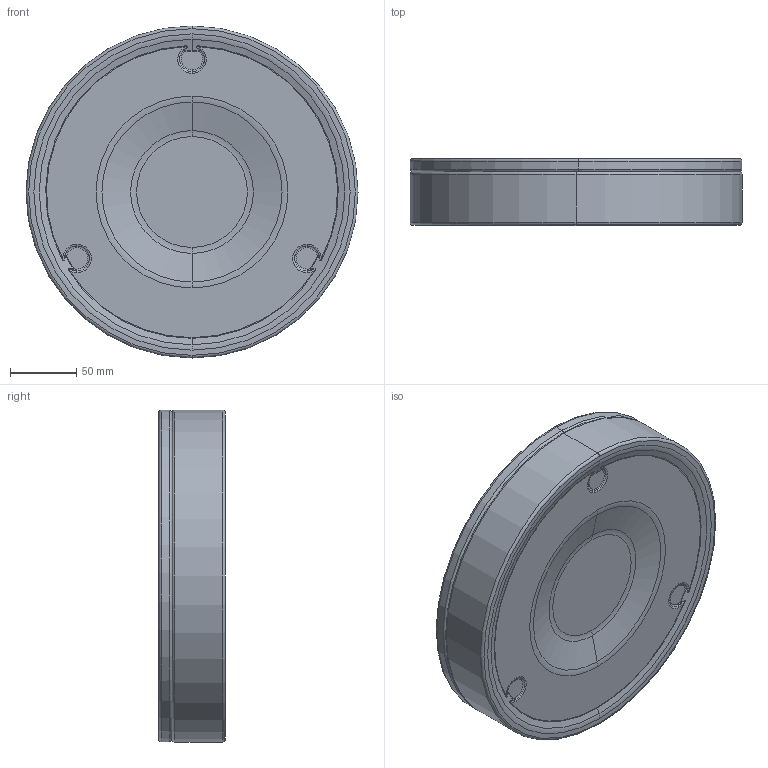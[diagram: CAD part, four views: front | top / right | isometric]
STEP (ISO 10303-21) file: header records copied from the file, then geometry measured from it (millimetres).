
FILE_DESCRIPTION (( 'STEP AP214' ), '1' );
FILE_NAME ('DS4000C__-BARBADOS-D25.STEP', '2015-05-12T17:34:40', ( '' ), ( '' ), 'SwSTEP 2.0', 'SolidWorks 2015', '' );
FILE_SCHEMA (( 'AUTOMOTIVE_DESIGN' ));
Length unit declared in the file: millimetre
Products named in the file (3): coperchio D25; DS4000C__-BARBADOS-D25; Corpo D25
Assembly tree (2 placements, depth 2):
  DS4000C__-BARBADOS-D25
    Corpo D25
    coperchio D25
Bounding box: 250 x 50.03 x 250 mm (x, y, z)
Volume: 1309784.4 mm3; surface area: 233916.5 mm2
Topology: 2 solids, 2 shells, 130 faces, 269 edges, 150 vertices
Faces by surface type: torus 65, cone 26, plane 14, bspline 12, sphere 9, cylinder 4
Entity records: 4325 total; most frequent: CARTESIAN_POINT 1394, DIRECTION 709, ORIENTED_EDGE 538, AXIS2_PLACEMENT_3D 341, EDGE_CURVE 269, CIRCLE 218, VERTEX_POINT 150, EDGE_LOOP 139
